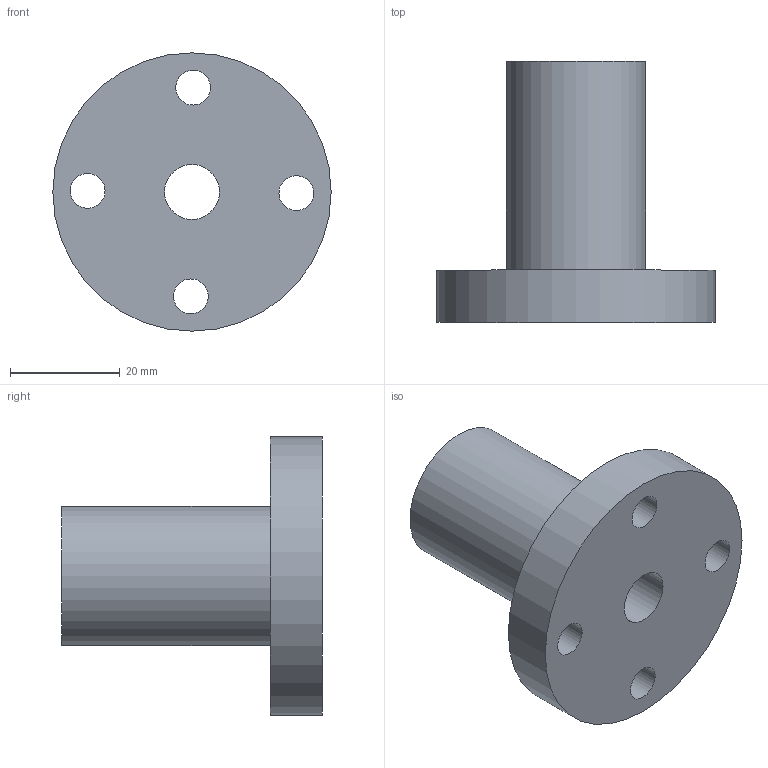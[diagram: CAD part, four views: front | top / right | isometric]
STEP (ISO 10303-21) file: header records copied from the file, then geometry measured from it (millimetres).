
FILE_DESCRIPTION(/* description */ (''),/* implementation_level */ '2;1');
FILE_NAME(/* name */ 'C:/Users/Joseph/Desktop/Captive Nut/Flange With Cavity.step',/* time_stamp */ '2016-11-04T22:40:24-04:00',/* author */ (''),/* organization */ (''),/* preprocessor_version */ 'ST-DEVELOPER v16.5',/* originating_system */ 'Autodesk Translation Framework v5.2.0.2031',/* authorisation */ '');
FILE_SCHEMA (('AUTOMOTIVE_DESIGN { 1 0 10303 214 3 1 1 }'));
Length unit declared in the file: centimetre
Products named in the file (1): Captive Nut Flange 3 v6
Bounding box: 50.8 x 47.62 x 50.8 mm (x, y, z)
Volume: 32809.4 mm3; surface area: 10804.8 mm2
Topology: 1 solids, 1 shells, 19 faces, 42 edges, 28 vertices
Faces by surface type: plane 11, cylinder 8
Full cylindrical faces by diameter (mm): 6.35 x4, 10.033 x2, 25.4 x1, 50.8 x1
Entity records: 536 total; most frequent: DIRECTION 90, CARTESIAN_POINT 82, ORIENTED_EDGE 68, EDGE_LOOP 40, AXIS2_PLACEMENT_3D 36, EDGE_CURVE 34, VERTEX_POINT 28, FACE_BOUND 21
